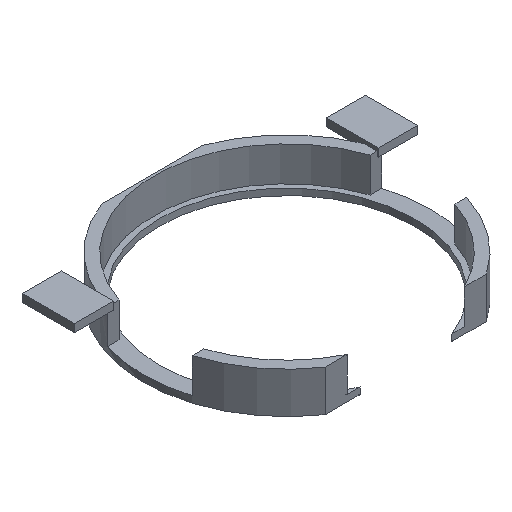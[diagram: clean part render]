
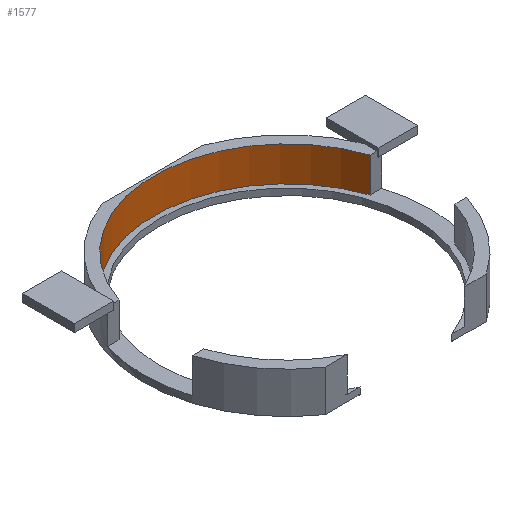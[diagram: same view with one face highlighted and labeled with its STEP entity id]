
A CAD part, isometric view. The second image highlights one B-rep face of the part: STEP entity #1577.
In plain terms, the highlighted cylindrical face has radius 20.3 mm (diameter 40.6 mm), a partial arc.
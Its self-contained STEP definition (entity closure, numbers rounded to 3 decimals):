
#75 = PLANE('',#76);
#76 = AXIS2_PLACEMENT_3D('',#77,#78,#79);
#77 = CARTESIAN_POINT('',(30.,50.,4.2));
#78 = DIRECTION('',(0.,1.,0.));
#79 = DIRECTION('',(0.,0.,1.));
#103 = PLANE('',#104);
#104 = AXIS2_PLACEMENT_3D('',#105,#106,#107);
#105 = CARTESIAN_POINT('',(0.,43.5,4.9));
#106 = DIRECTION('',(0.,0.,1.));
#107 = DIRECTION('',(0.,1.,0.));
#267 = PLANE('',#268);
#268 = AXIS2_PLACEMENT_3D('',#269,#270,#271);
#269 = CARTESIAN_POINT('',(0.,43.5,10.2));
#270 = DIRECTION('',(0.,0.,1.));
#271 = DIRECTION('',(0.,1.,0.));
#584 = VERTEX_POINT('',#585);
#585 = CARTESIAN_POINT('',(19.231,50.,10.2));
#599 = PLANE('',#600);
#600 = AXIS2_PLACEMENT_3D('',#601,#602,#603);
#601 = CARTESIAN_POINT('',(30.,50.,4.2));
#602 = DIRECTION('',(0.,1.,0.));
#603 = DIRECTION('',(0.,0.,1.));
#691 = VERTEX_POINT('',#692);
#692 = CARTESIAN_POINT('',(-19.231,50.,10.2));
#713 = EDGE_CURVE('',#691,#584,#714,.T.);
#714 = SURFACE_CURVE('',#715,(#720,#731),.PCURVE_S1.);
#715 = CIRCLE('',#716,20.3);
#716 = AXIS2_PLACEMENT_3D('',#717,#718,#719);
#717 = CARTESIAN_POINT('',(0.,43.5,10.2));
#718 = DIRECTION('',(0.,0.,-1.));
#719 = DIRECTION('',(-0.947,0.32,0.));
#720 = PCURVE('',#267,#721);
#721 = DEFINITIONAL_REPRESENTATION('',(#722),#730);
#722 = ( BOUNDED_CURVE() B_SPLINE_CURVE(2,(#723,#724,#725,#726,#727,#728
,#729),.UNSPECIFIED.,.T.,.F.) B_SPLINE_CURVE_WITH_KNOTS((1,2,2,2,2,1),(
    -2.094,0.,2.094,4.189,6.283,
8.378),.UNSPECIFIED.) CURVE() GEOMETRIC_REPRESENTATION_ITEM() 
RATIONAL_B_SPLINE_CURVE((1.,0.5,1.,0.5,1.,0.5,1.)) REPRESENTATION_ITEM(
  '') );
#723 = CARTESIAN_POINT('',(6.5,19.231));
#724 = CARTESIAN_POINT('',(39.809,7.973));
#725 = CARTESIAN_POINT('',(13.405,-15.245));
#726 = CARTESIAN_POINT('',(-13.,-38.462));
#727 = CARTESIAN_POINT('',(-19.905,-3.986));
#728 = CARTESIAN_POINT('',(-26.809,30.49));
#729 = CARTESIAN_POINT('',(6.5,19.231));
#730 = ( GEOMETRIC_REPRESENTATION_CONTEXT(2) 
PARAMETRIC_REPRESENTATION_CONTEXT() REPRESENTATION_CONTEXT('2D SPACE',''
  ) );
#731 = PCURVE('',#732,#737);
#732 = CYLINDRICAL_SURFACE('',#733,20.3);
#733 = AXIS2_PLACEMENT_3D('',#734,#735,#736);
#734 = CARTESIAN_POINT('',(0.,43.5,4.5));
#735 = DIRECTION('',(0.,-0.,-1.));
#736 = DIRECTION('',(0.,1.,0.));
#737 = DEFINITIONAL_REPRESENTATION('',(#738),#742);
#738 = LINE('',#739,#740);
#739 = CARTESIAN_POINT('',(-7.528,-5.7));
#740 = VECTOR('',#741,1.);
#741 = DIRECTION('',(1.,-0.));
#742 = ( GEOMETRIC_REPRESENTATION_CONTEXT(2) 
PARAMETRIC_REPRESENTATION_CONTEXT() REPRESENTATION_CONTEXT('2D SPACE',''
  ) );
#1091 = VERTEX_POINT('',#1092);
#1092 = CARTESIAN_POINT('',(-19.231,50.,4.9));
#1276 = VERTEX_POINT('',#1277);
#1277 = CARTESIAN_POINT('',(19.231,50.,4.9));
#1298 = EDGE_CURVE('',#1091,#1276,#1299,.T.);
#1299 = SURFACE_CURVE('',#1300,(#1305,#1316),.PCURVE_S1.);
#1300 = CIRCLE('',#1301,20.3);
#1301 = AXIS2_PLACEMENT_3D('',#1302,#1303,#1304);
#1302 = CARTESIAN_POINT('',(0.,43.5,4.9));
#1303 = DIRECTION('',(0.,0.,-1.));
#1304 = DIRECTION('',(0.,1.,0.));
#1305 = PCURVE('',#103,#1306);
#1306 = DEFINITIONAL_REPRESENTATION('',(#1307),#1315);
#1307 = ( BOUNDED_CURVE() B_SPLINE_CURVE(2,(#1308,#1309,#1310,#1311,
#1312,#1313,#1314),.UNSPECIFIED.,.T.,.F.) B_SPLINE_CURVE_WITH_KNOTS((1,2
    ,2,2,2,1),(-2.094,0.,2.094,4.189,
6.283,8.378),.UNSPECIFIED.) CURVE() 
GEOMETRIC_REPRESENTATION_ITEM() RATIONAL_B_SPLINE_CURVE((1.,0.5,1.,0.5,
1.,0.5,1.)) REPRESENTATION_ITEM('') );
#1308 = CARTESIAN_POINT('',(20.3,0.));
#1309 = CARTESIAN_POINT('',(20.3,-35.161));
#1310 = CARTESIAN_POINT('',(-10.15,-17.58));
#1311 = CARTESIAN_POINT('',(-40.6,0.));
#1312 = CARTESIAN_POINT('',(-10.15,17.58));
#1313 = CARTESIAN_POINT('',(20.3,35.161));
#1314 = CARTESIAN_POINT('',(20.3,0.));
#1315 = ( GEOMETRIC_REPRESENTATION_CONTEXT(2) 
PARAMETRIC_REPRESENTATION_CONTEXT() REPRESENTATION_CONTEXT('2D SPACE',''
  ) );
#1316 = PCURVE('',#732,#1317);
#1317 = DEFINITIONAL_REPRESENTATION('',(#1318),#1322);
#1318 = LINE('',#1319,#1320);
#1319 = CARTESIAN_POINT('',(-12.566,-0.4));
#1320 = VECTOR('',#1321,1.);
#1321 = DIRECTION('',(1.,-0.));
#1322 = ( GEOMETRIC_REPRESENTATION_CONTEXT(2) 
PARAMETRIC_REPRESENTATION_CONTEXT() REPRESENTATION_CONTEXT('2D SPACE',''
  ) );
#1328 = EDGE_CURVE('',#691,#1091,#1329,.T.);
#1329 = SURFACE_CURVE('',#1330,(#1334,#1341),.PCURVE_S1.);
#1330 = LINE('',#1331,#1332);
#1331 = CARTESIAN_POINT('',(-19.231,50.,4.5));
#1332 = VECTOR('',#1333,1.);
#1333 = DIRECTION('',(0.,-0.,-1.));
#1334 = PCURVE('',#75,#1335);
#1335 = DEFINITIONAL_REPRESENTATION('',(#1336),#1340);
#1336 = LINE('',#1337,#1338);
#1337 = CARTESIAN_POINT('',(0.3,-49.231));
#1338 = VECTOR('',#1339,1.);
#1339 = DIRECTION('',(-1.,0.));
#1340 = ( GEOMETRIC_REPRESENTATION_CONTEXT(2) 
PARAMETRIC_REPRESENTATION_CONTEXT() REPRESENTATION_CONTEXT('2D SPACE',''
  ) );
#1341 = PCURVE('',#732,#1342);
#1342 = DEFINITIONAL_REPRESENTATION('',(#1343),#1347);
#1343 = LINE('',#1344,#1345);
#1344 = CARTESIAN_POINT('',(-7.528,0.));
#1345 = VECTOR('',#1346,1.);
#1346 = DIRECTION('',(-0.,1.));
#1347 = ( GEOMETRIC_REPRESENTATION_CONTEXT(2) 
PARAMETRIC_REPRESENTATION_CONTEXT() REPRESENTATION_CONTEXT('2D SPACE',''
  ) );
#1557 = EDGE_CURVE('',#584,#1276,#1558,.T.);
#1558 = SURFACE_CURVE('',#1559,(#1563,#1570),.PCURVE_S1.);
#1559 = LINE('',#1560,#1561);
#1560 = CARTESIAN_POINT('',(19.231,50.,4.5));
#1561 = VECTOR('',#1562,1.);
#1562 = DIRECTION('',(0.,-0.,-1.));
#1563 = PCURVE('',#599,#1564);
#1564 = DEFINITIONAL_REPRESENTATION('',(#1565),#1569);
#1565 = LINE('',#1566,#1567);
#1566 = CARTESIAN_POINT('',(0.3,-10.769));
#1567 = VECTOR('',#1568,1.);
#1568 = DIRECTION('',(-1.,0.));
#1569 = ( GEOMETRIC_REPRESENTATION_CONTEXT(2) 
PARAMETRIC_REPRESENTATION_CONTEXT() REPRESENTATION_CONTEXT('2D SPACE',''
  ) );
#1570 = PCURVE('',#732,#1571);
#1571 = DEFINITIONAL_REPRESENTATION('',(#1572),#1576);
#1572 = LINE('',#1573,#1574);
#1573 = CARTESIAN_POINT('',(-5.038,0.));
#1574 = VECTOR('',#1575,1.);
#1575 = DIRECTION('',(-0.,1.));
#1576 = ( GEOMETRIC_REPRESENTATION_CONTEXT(2) 
PARAMETRIC_REPRESENTATION_CONTEXT() REPRESENTATION_CONTEXT('2D SPACE',''
  ) );
#1577 = ADVANCED_FACE('',(#1578),#732,.F.);
#1578 = FACE_BOUND('',#1579,.T.);
#1579 = EDGE_LOOP('',(#1580,#1581,#1582,#1583));
#1580 = ORIENTED_EDGE('',*,*,#713,.F.);
#1581 = ORIENTED_EDGE('',*,*,#1328,.T.);
#1582 = ORIENTED_EDGE('',*,*,#1298,.T.);
#1583 = ORIENTED_EDGE('',*,*,#1557,.F.);
